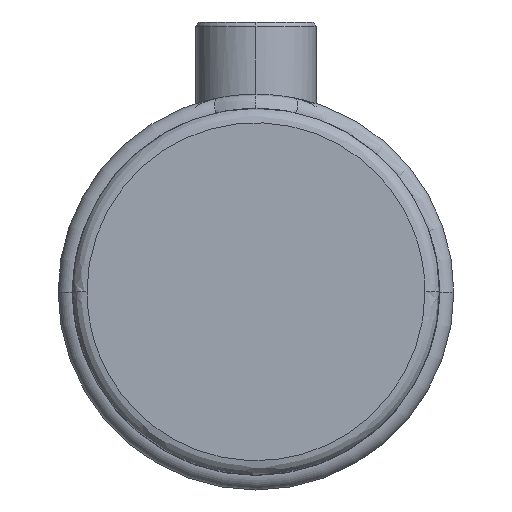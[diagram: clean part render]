
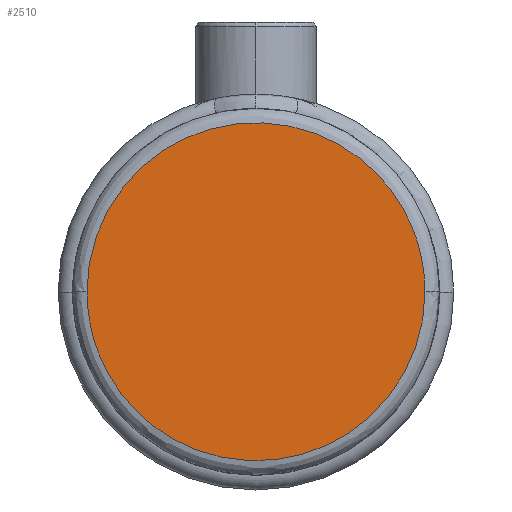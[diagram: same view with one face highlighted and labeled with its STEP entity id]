
A CAD part, top view. The second image highlights one B-rep face of the part: STEP entity #2510.
In plain terms, the highlighted planar face has unit normal (0, 0, 1).
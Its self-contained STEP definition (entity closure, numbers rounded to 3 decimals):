
#978 = ORIENTED_EDGE ( 'NONE', *, *, #5808, .F. ) ;
#1373 = VERTEX_POINT ( 'NONE', #10089 ) ;
#1643 = EDGE_LOOP ( 'NONE', ( #978, #6585 ) ) ;
#2510 = ADVANCED_FACE ( 'NONE', ( #8315 ), #8277, .T. ) ;
#3209 = CARTESIAN_POINT ( 'NONE',  ( -35.1, 0., 50. ) ) ;
#4008 = DIRECTION ( 'NONE',  ( 1., 0., 0. ) ) ;
#4036 = CARTESIAN_POINT ( 'NONE',  ( 35.1, 70.2, 50. ) ) ;
#4559 = CARTESIAN_POINT ( 'NONE',  ( 35.1, -70.2, 50. ) ) ;
#4598 = CARTESIAN_POINT ( 'NONE',  ( -35.1, -70.2, 50. ) ) ;
#4780 = VERTEX_POINT ( 'NONE', #9993 ) ;
#5688 = CARTESIAN_POINT ( 'NONE',  ( 0., 19.05, 50. ) ) ;
#5734 =( BOUNDED_CURVE ( )  B_SPLINE_CURVE ( 3, ( #3209, #9107, #4036, #9951 ),
 .UNSPECIFIED., .F., .F. ) 
 B_SPLINE_CURVE_WITH_KNOTS ( ( 4, 4 ),
 ( 0.75, 1.25 ),
 .UNSPECIFIED. ) 
 CURVE ( )  GEOMETRIC_REPRESENTATION_ITEM ( )  RATIONAL_B_SPLINE_CURVE ( ( 1., 0.333, 0.333, 1. ) ) 
 REPRESENTATION_ITEM ( '' )  );
#5808 = EDGE_CURVE ( 'NONE', #1373, #4780, #8996, .T. ) ;
#6585 = ORIENTED_EDGE ( 'NONE', *, *, #9637, .F. ) ;
#8051 = CARTESIAN_POINT ( 'NONE',  ( 35.1, 0., 50. ) ) ;
#8277 = PLANE ( 'NONE',  #9399 ) ;
#8315 = FACE_OUTER_BOUND ( 'NONE', #1643, .T. ) ;
#8996 =( BOUNDED_CURVE ( )  B_SPLINE_CURVE ( 3, ( #8051, #4559, #4598, #10517 ),
 .UNSPECIFIED., .F., .F. ) 
 B_SPLINE_CURVE_WITH_KNOTS ( ( 4, 4 ),
 ( 0.25, 0.75 ),
 .UNSPECIFIED. ) 
 CURVE ( )  GEOMETRIC_REPRESENTATION_ITEM ( )  RATIONAL_B_SPLINE_CURVE ( ( 1., 0.333, 0.333, 1. ) ) 
 REPRESENTATION_ITEM ( '' )  );
#9082 = DIRECTION ( 'NONE',  ( 0., 0., 1. ) ) ;
#9107 = CARTESIAN_POINT ( 'NONE',  ( -35.1, 70.2, 50. ) ) ;
#9399 = AXIS2_PLACEMENT_3D ( 'NONE', #5688, #9082, #4008 ) ;
#9637 = EDGE_CURVE ( 'NONE', #4780, #1373, #5734, .T. ) ;
#9951 = CARTESIAN_POINT ( 'NONE',  ( 35.1, 0., 50. ) ) ;
#9993 = CARTESIAN_POINT ( 'NONE',  ( -35.1, 0., 50. ) ) ;
#10089 = CARTESIAN_POINT ( 'NONE',  ( 35.1, 0., 50. ) ) ;
#10517 = CARTESIAN_POINT ( 'NONE',  ( -35.1, 0., 50. ) ) ;
